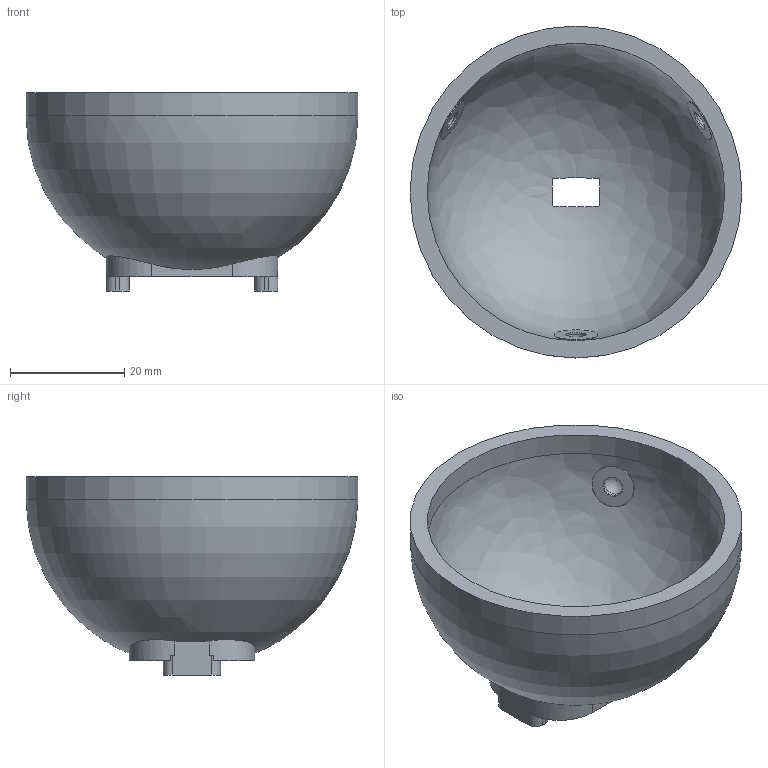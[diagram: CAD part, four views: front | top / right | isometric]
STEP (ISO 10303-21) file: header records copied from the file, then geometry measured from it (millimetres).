
FILE_DESCRIPTION(('Open CASCADE Model'),'2;1');
FILE_NAME('Open CASCADE Shape Model','2026-06-04T07:57:46',('Author'),( 'Open CASCADE'),'Open CASCADE STEP processor 7.6','Open CASCADE 7.6' ,'Unknown');
FILE_SCHEMA(('AP242_MANAGED_MODEL_BASED_3D_ENGINEERING_MIM_LF. {1 0 10303 442 1 1 4 }'));
Length unit declared in the file: millimetre
Products named in the file (1): Open CASCADE STEP translator 7.6 2
Bounding box: 58 x 58 x 34.6 mm (x, y, z)
Volume: 16601.4 mm3; surface area: 11925.4 mm2
Topology: 1 solids, 1 shells, 80 faces, 209 edges, 137 vertices
Faces by surface type: plane 35, cylinder 31, revolution 8, bspline 4, cone 2
Full cylindrical faces by diameter (mm): 2.05 x2, 3.57 x3, 3.572 x3, 7.57 x3, 52 x1, 58 x1
Entity records: 8598 total; most frequent: CARTESIAN_POINT 4480, DIRECTION 765, ORIENTED_EDGE 408, PCURVE 408, DEFINITIONAL_REPRESENTATION 408, LINE 403, VECTOR 403, EDGE_CURVE 204
